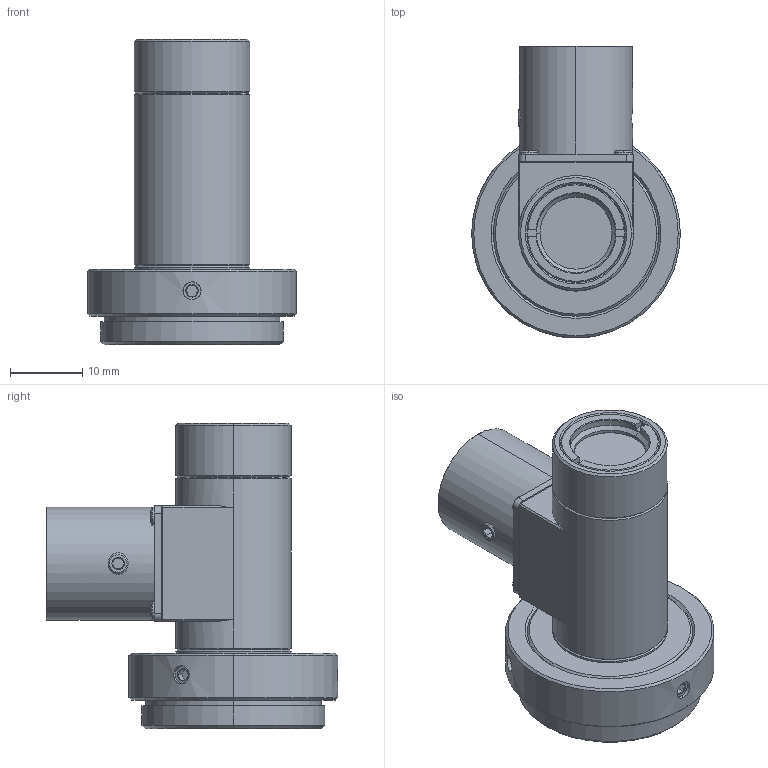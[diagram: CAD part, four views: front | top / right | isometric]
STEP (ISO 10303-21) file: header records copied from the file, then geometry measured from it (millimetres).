
FILE_DESCRIPTION (( 'STEP AP203' ), '1' );
FILE_NAME ('MML2-ST40D_A03914A0100101A-001.STEP', '2013-12-11T08:14:59', ( 'SCHOTT' ), ( 'SCHOTT' ), 'SwSTEP 2.0', 'SolidWorks 2011', '' );
FILE_SCHEMA (( 'CONFIG_CONTROL_DESIGN' ));
Length unit declared in the file: millimetre
Products named in the file (1): MML2-ST40D_A03914A0100101A-001
Bounding box: 29 x 40.5 x 42.45 mm (x, y, z)
Volume: 14799.8 mm3; surface area: 6810.5 mm2
Topology: 1 solids, 6 shells, 406 faces, 962 edges, 580 vertices
Faces by surface type: plane 169, cone 144, cylinder 69, torus 16, sphere 8
Entity records: 12237 total; most frequent: CARTESIAN_POINT 2878, DIRECTION 2024, ORIENTED_EDGE 1908, EDGE_CURVE 954, AXIS2_PLACEMENT_3D 840, VERTEX_POINT 580, EDGE_LOOP 438, CIRCLE 433
